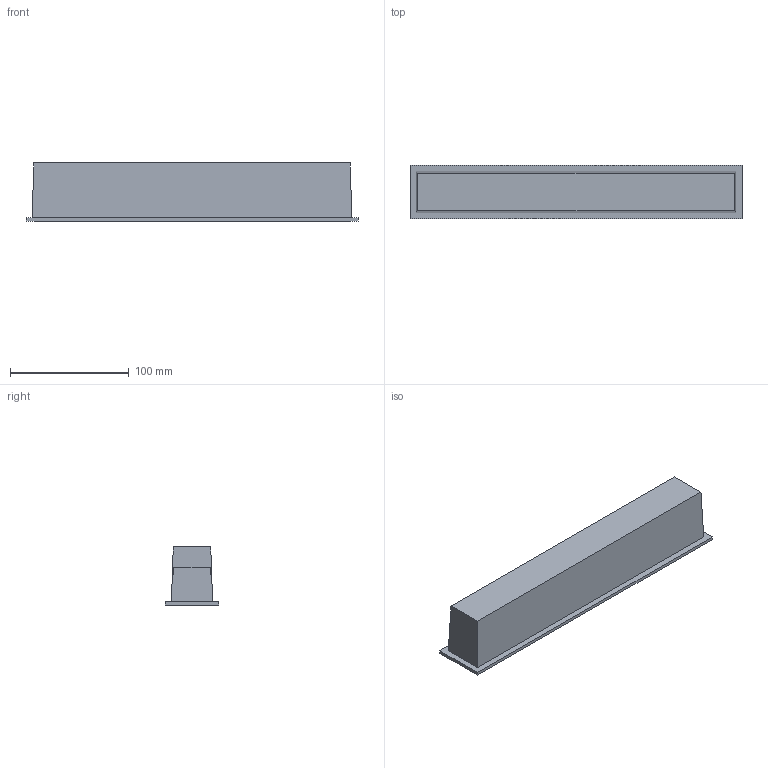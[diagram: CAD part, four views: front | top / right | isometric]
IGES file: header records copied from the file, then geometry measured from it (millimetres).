
Start section: SolidWorks IGES file using analytic representation for surfaces
Global section: file name: X:\PRODUKT\Modele 3D_WWW\_KOLEKCJE WWW\MINI\MINI-LED-10045-10046\MINI-LED-10045-10046.IGS; native system: SolidWorks 2021; preprocessor: SolidWorks 2021; author: gabriela.tworek; date: 220602.101326; units: millimetre
Bounding box: 280 x 45 x 49 mm (x, y, z)
Surface area: 140140.4 mm2 (no closed solid volume)
Topology: 0 solids, 0 shells, 197 faces, 610 edges, 560 vertices
Faces by surface type: bspline 147, revolution 50
